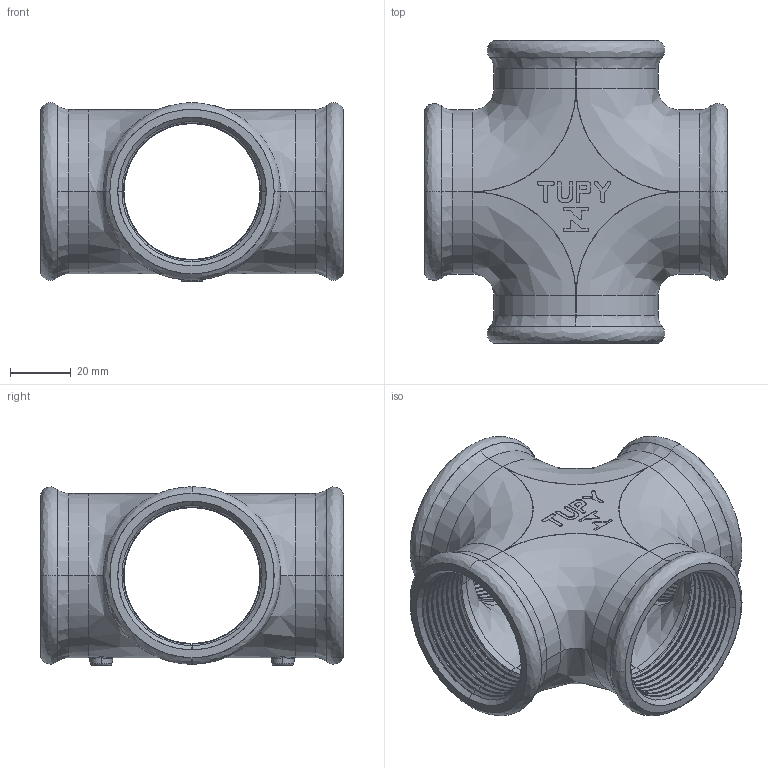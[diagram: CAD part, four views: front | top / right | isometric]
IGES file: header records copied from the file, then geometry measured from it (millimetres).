
Start section: SolidWorks IGES file using analytic representation for surfaces
Global section: file name: C:\Users\Joel Rosa\Desktop\Tubulação\12-18-OK\12-18-009.IGS; native system: SolidWorks 2011; preprocessor: SolidWorks 2011; author: Joel Rosa; date: 121207.003334; units: millimetre
Bounding box: 100 x 100 x 58.9 mm (x, y, z)
Surface area: 53413.7 mm2 (no closed solid volume)
Topology: 0 solids, 0 shells, 529 faces, 4289 edges, 4289 vertices
Faces by surface type: bspline 355, revolution 174
